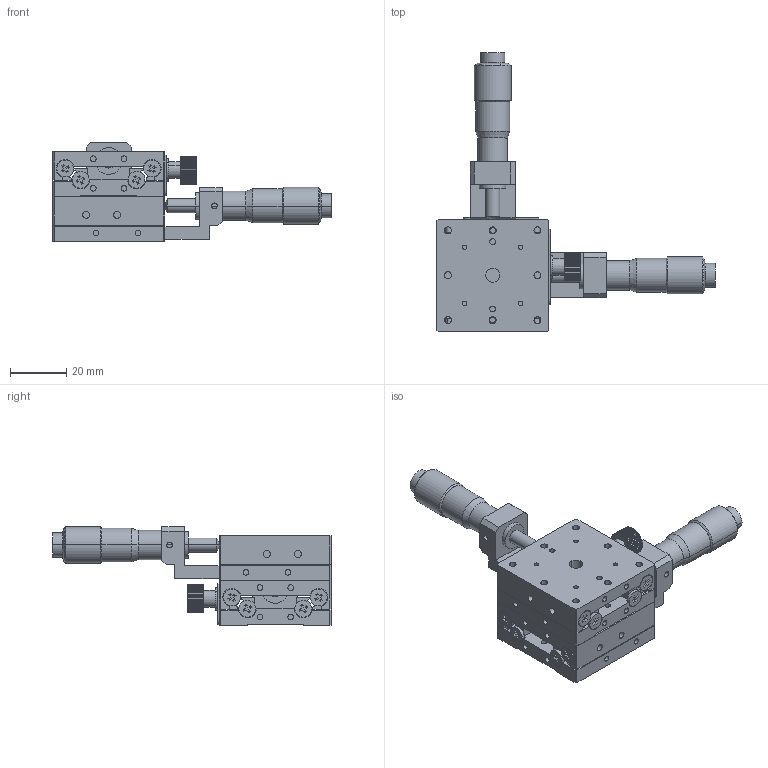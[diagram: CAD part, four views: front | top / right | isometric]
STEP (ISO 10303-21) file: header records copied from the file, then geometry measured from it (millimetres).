
FILE_DESCRIPTION (( 'STEP AP203' ), '1' );
FILE_NAME ('JXY-40C-16H.STEP', '2023-03-13T09:31:56', ( '微软用户' ), ( '微软中国' ), 'SwSTEP 2.0', 'SolidWorks 2018', '' );
FILE_SCHEMA (( 'CONFIG_CONTROL_DESIGN' ));
Length unit declared in the file: millimetre
Products named in the file (11): JX-40C-16H; JX-40-05 癹弇え; JX-40蹟佪; JX-40C(MIR)-16H; FC-NB-10 内六角滚花螺丝 （直纹）; JX-40-02 狟裔; JCX-80(H18)菜え; JXY-40C-16H; JALB-72-R(0-13埴芛ロ煦喜); JX-40-01奻裔; JX-40-06 C千分尺固定块
Assembly tree (32 placements, depth 3):
  JXY-40C-16H
    JX-40C-16H
      JX-40-02 狟裔
      JX-40-01奻裔
      JX-40蹟佪  x8
      JALB-72-R(0-13埴芛ロ煦喜)
      JX-40-05 癹弇え
      FC-NB-10 内六角滚花螺丝 （直纹）
      JCX-80(H18)菜え
      JX-40-06 C千分尺固定块
    JX-40C(MIR)-16H
      JX-40-02 狟裔
      JX-40-01奻裔
      JX-40蹟佪  x8
      JALB-72-R(0-13埴芛ロ煦喜)
      JX-40-05 癹弇え
      FC-NB-10 内六角滚花螺丝 （直纹）
      JCX-80(H18)菜え
      JX-40-06 C千分尺固定块
Bounding box: 99.5 x 99.5 x 35.3 mm (x, y, z)
Volume: 55151.7 mm3; surface area: 36389.2 mm2
Topology: 30 solids, 30 shells, 1242 faces, 3212 edges, 2130 vertices
Faces by surface type: cylinder 696, plane 526, cone 12, sphere 8
Entity records: 17369 total; most frequent: DIRECTION 2922, CARTESIAN_POINT 2877, ORIENTED_EDGE 2540, EDGE_CURVE 1270, AXIS2_PLACEMENT_3D 1158, VERTEX_POINT 841, CIRCLE 640, VECTOR 606
